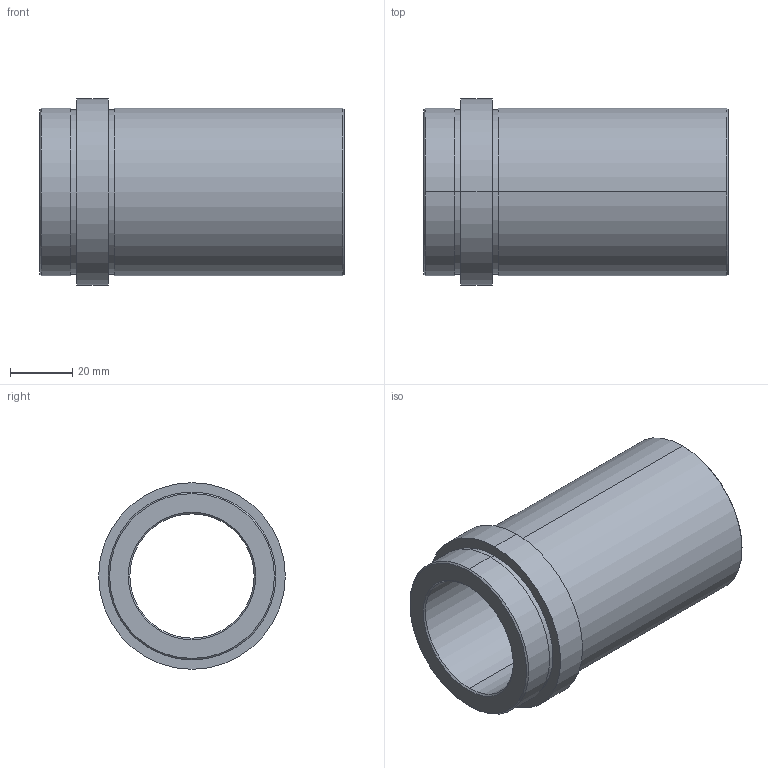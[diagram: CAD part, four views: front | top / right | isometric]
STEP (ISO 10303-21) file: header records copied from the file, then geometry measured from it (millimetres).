
FILE_DESCRIPTION( ( 'STEP AP203' ), '1' );
FILE_NAME( 'C:/Projects/D21 - 40x86.step', '2002-12-31T23:05:44', ( ' ' ), ( ' ' ), 'XStep 1.0', ' ', ' ' );
FILE_SCHEMA( ( 'CONFIG_CONTROL_DESIGN' ) );
Length unit declared in the file: metre
Products named in the file (1): 1
Bounding box: 98 x 60 x 60 mm (x, y, z)
Volume: 106253.4 mm3; surface area: 32421 mm2
Topology: 1 solids, 1 shells, 26 faces, 52 edges, 32 vertices
Faces by surface type: revolution 20, bspline 6
Entity records: 773 total; most frequent: CARTESIAN_POINT 169, DIRECTION 106, ORIENTED_EDGE 104, EDGE_CURVE 52, AXIS2_PLACEMENT_3D 33, EDGE_LOOP 32, VERTEX_POINT 32, CIRCLE 32
